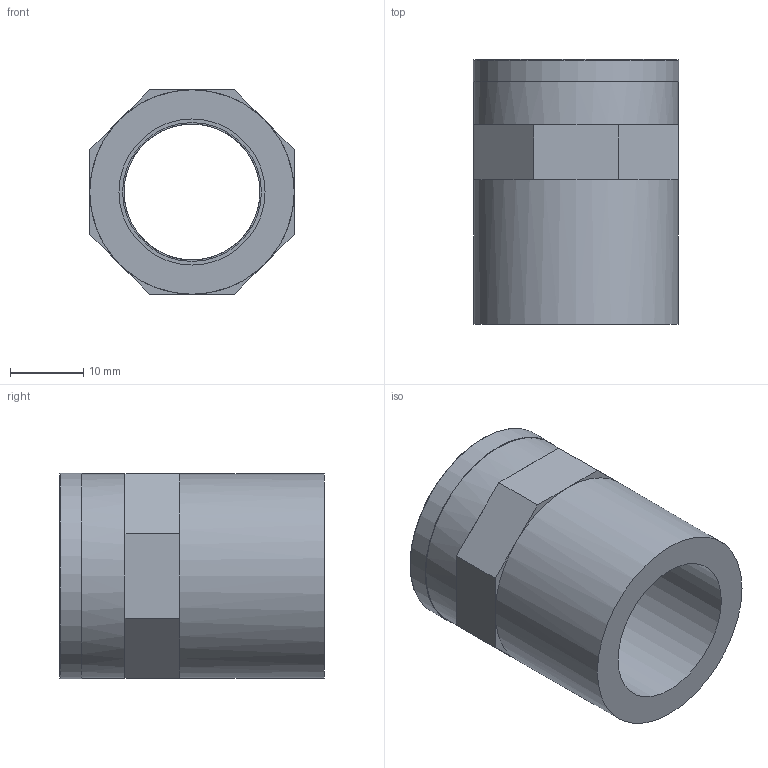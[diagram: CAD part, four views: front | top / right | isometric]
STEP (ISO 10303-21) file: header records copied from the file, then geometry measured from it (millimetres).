
FILE_DESCRIPTION(/* description */ (''),/* implementation_level */ '2;1');
FILE_NAME(/* name */ 'C:\Users\POLYPIPE\Desktop\DATASET INVENTOR\LIBRERIA EFFAST\RACCORDI 3DxWEB\RGR\3D_RGRMAR\3D_RGRMAR020B.stp',/* time_stamp */ '2018-01-19T17:52:22+01:00',/* author */ ('POLYPIPE'),/* organization */ (''),/* preprocessor_version */ 'ST-DEVELOPER v16.1',/* originating_system */ 'Autodesk Inventor 2016',/* authorisation */ '');
FILE_SCHEMA (('CONFIG_CONTROL_DESIGN'));
Length unit declared in the file: centimetre
Products named in the file (1): 3D_RGRMAR020B
Bounding box: 28.2 x 36.25 x 28.2 mm (x, y, z)
Volume: 11430.2 mm3; surface area: 6837.5 mm2
Topology: 1 solids, 1 shells, 44 faces, 92 edges, 54 vertices
Faces by surface type: plane 31, cylinder 7, bspline 5, torus 1
Full cylindrical faces by diameter (mm): 18.631 x1, 19 x1, 20 x1, 23 x1, 28 x2, 28.2 x1
Entity records: 4192 total; most frequent: CARTESIAN_POINT 3211, DIRECTION 185, ORIENTED_EDGE 170, EDGE_CURVE 85, AXIS2_PLACEMENT_3D 71, EDGE_LOOP 57, VERTEX_POINT 54, STYLED_ITEM 45
